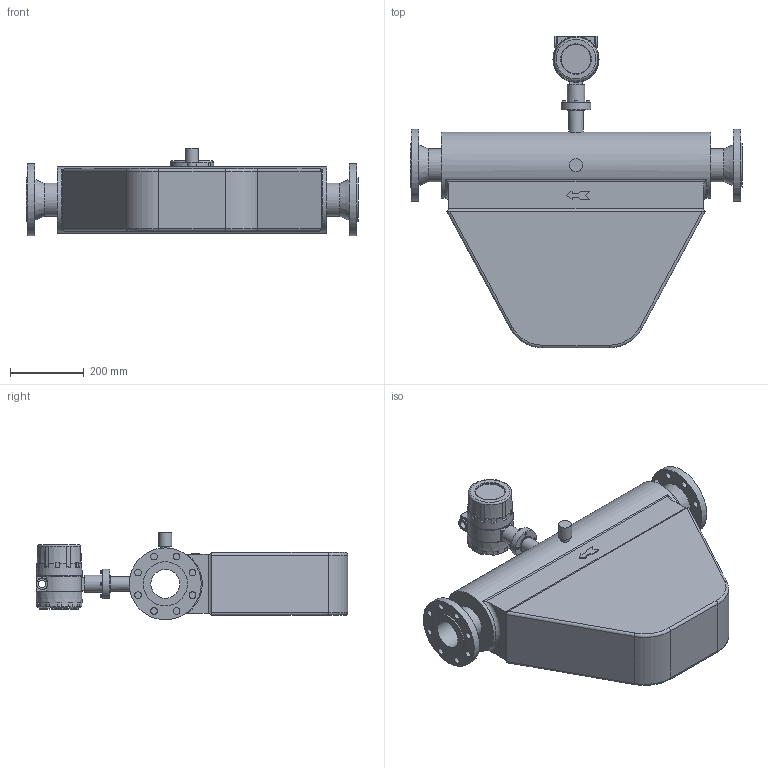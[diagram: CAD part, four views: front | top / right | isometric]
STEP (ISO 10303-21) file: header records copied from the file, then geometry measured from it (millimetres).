
FILE_DESCRIPTION(('STEP AP203'), '1');
FILE_NAME('Äó 80 - 4 ÌÏà - 100 Ñ', '', ('UNSPECIFIED'), ('UNSPECIFIED'), 'ASCON STEP Converter 1.6', 'ASCON Math Kernel', '');
FILE_SCHEMA(('CONFIG_CONTROL_DESIGN'));
Length unit declared in the file: millimetre
Products named in the file (1): Äó 80Ê äî 4 ÌÏà
Bounding box: 900 x 845 x 237.5 mm (x, y, z)
Volume: 55289437.6 mm3; surface area: 1522767.7 mm2
Topology: 1 solids, 1 shells, 380 faces, 954 edges, 591 vertices
Faces by surface type: plane 205, cylinder 103, cone 52, torus 12, bspline 4, sphere 4
Full cylindrical faces by diameter (mm): 6.35 x4, 9.525 x4, 18 x16, 20 x1, 25 x1, 32 x2, 35 x1, 40 x1, 46 x1, 47 x1, 78 x1, 80 x2, 90 x2, 120 x2, 180 x1, 195 x2
Entity records: 16127 total; most frequent: CARTESIAN_POINT 4271, DIRECTION 1816, ORIENTED_EDGE 1758, EDGE_CURVE 879, AXIS2_PLACEMENT_3D 711, VERTEX_POINT 587, EDGE_LOOP 502, FACE_BOUND 411
